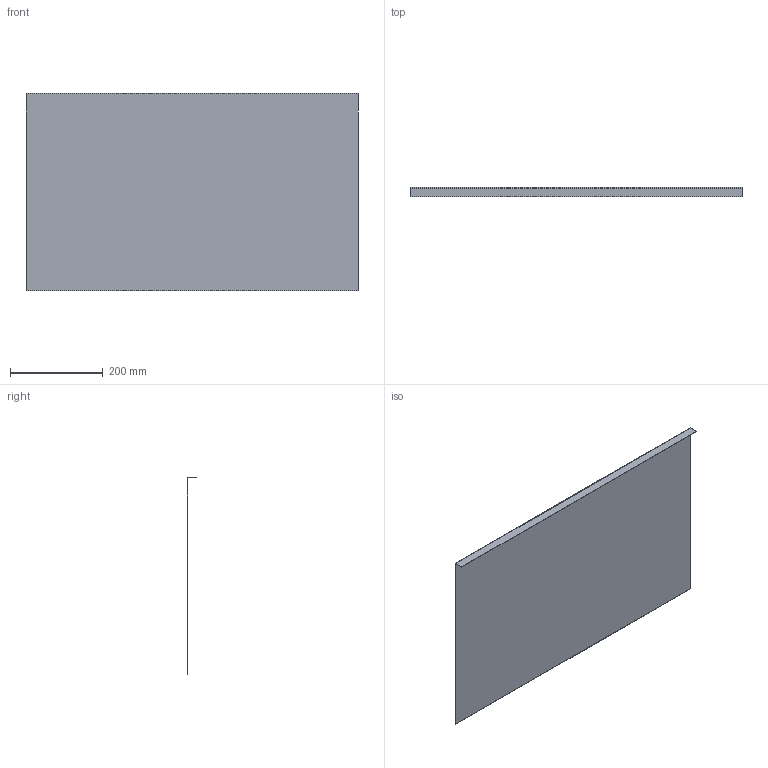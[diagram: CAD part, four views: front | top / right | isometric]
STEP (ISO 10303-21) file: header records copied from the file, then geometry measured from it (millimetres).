
FILE_DESCRIPTION((''),'2;1');
FILE_NAME('238584','2023-10-10T12:18:26',('1ke04'),('Kesseboehmer'),'CREO PARAMETRIC BY PTC INC, 2020414','CREO PARAMETRIC BY PTC INC, 2020414','');
FILE_SCHEMA(('AUTOMOTIVE_DESIGN { 1 0 10303 214 1 1 1 1 }'));
Length unit declared in the file: millimetre
Products named in the file (1): 238584
Bounding box: 715 x 19.8 x 425 mm (x, y, z)
Volume: 253747 mm3; surface area: 636221.4 mm2
Topology: 1 solids, 1 shells, 14 faces, 31 edges, 21 vertices
Faces by surface type: plane 12, cylinder 2
Entity records: 1084 total; most frequent: COLOUR_RGB 194, DIRECTION 88, CARTESIAN_POINT 78, PROPERTY_DEFINITION 73, REPRESENTATION 72, PROPERTY_DEFINITION_REPRESENTATION 72, ORIENTED_EDGE 56, GENERAL_PROPERTY 48
